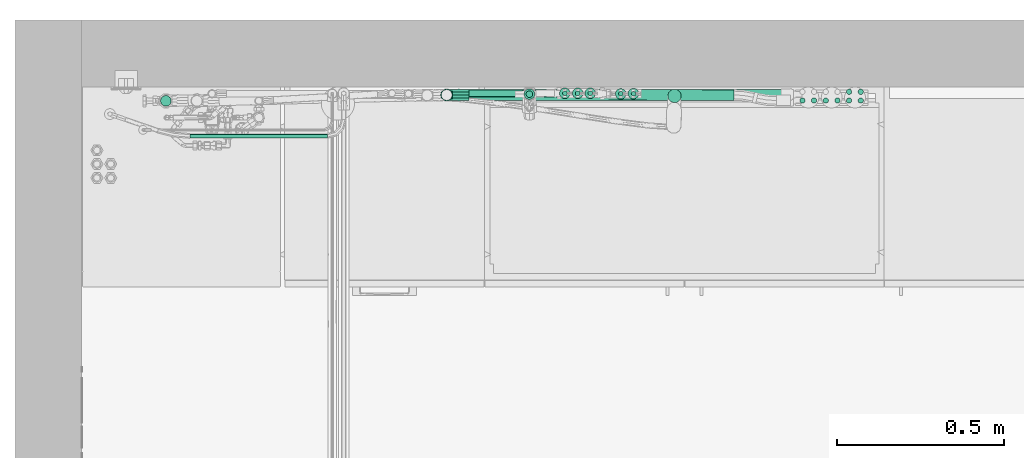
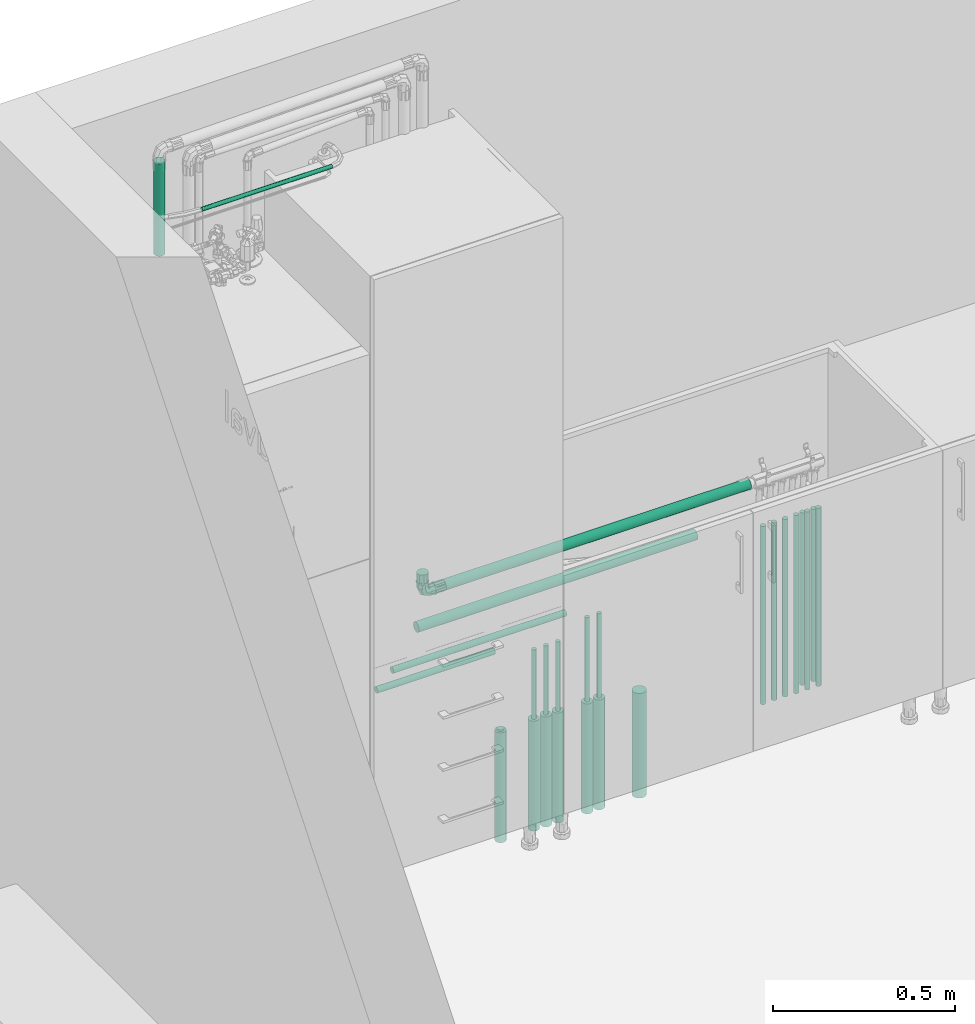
# One storey, part 20 of 30: 27 flow segments, 1 flow fitting.
"""IFC2X3 building model written with IfcOpenShell, lengths in metres."""

import ifcopenshell
import ifcopenshell.guid

model = None  # the IFC model being written
_history = None  # IfcOwnerHistory: only IFC2X3 demands one
_inside = {}  # id of a spatial element -> (the spatial element, [elements in it])
_under = {}  # id of a project, library or spatial element -> (it, [spatial elements below it])
_declared = {}  # id of a project -> (the project, [libraries it declares])
_typed = {}  # id of a type object -> (the type object, [elements of that type])
_made_of = {}  # id of a material, layer set ... -> (it, [elements and type objects made of it])


def new_model(schema):
    """Start an empty IFC model of exactly this schema.

    Asked for "IFC4X3", IfcOpenShell would pick the latest addendum, in which some entities
    have other attributes; the version numbers below select the first issue.
    IFC2X3 requires an IfcOwnerHistory on every rooted entity: one is made here for all.
    """
    global model, _history
    if schema == "IFC4X3":
        model = ifcopenshell.file(schema_version=(4, 3, 0, 0))
    else:
        model = ifcopenshell.file(schema=schema)
    _inside.clear()
    _under.clear()
    _declared.clear()
    _typed.clear()
    _made_of.clear()
    _history = None
    if model.schema == "IFC2X3":
        org = make("IfcOrganization", Name="unknown")
        user = make(
            "IfcPersonAndOrganization",
            ThePerson=make("IfcPerson", FamilyName="unknown"),
            TheOrganization=org,
        )
        app = make(
            "IfcApplication",
            ApplicationDeveloper=org,
            Version="unknown",
            ApplicationFullName="unknown",
            ApplicationIdentifier="unknown",
        )
        _history = make(
            "IfcOwnerHistory",
            OwningUser=user,
            OwningApplication=app,
            ChangeAction="ADDED",
            CreationDate=0,
        )
    return model


def make(cls, **values):
    """One entity of the class cls with the attributes given. An attribute that is None is left unset."""
    return model.create_entity(
        cls, **{name: value for name, value in values.items() if value is not None}
    )


def entity(cls, *values):
    """Any entity or typed value of the class cls, its attributes in the order of the schema. None: left unset."""
    e = model.create_entity(cls)
    for i, value in enumerate(values):
        if value is not None:
            e[i] = value
    return e


def rooted(cls, **values):
    """An entity with a GlobalId (a new one), such as an element, a storey or a relation."""
    return make(cls, GlobalId=ifcopenshell.guid.new(), OwnerHistory=_history, **values)


def si_unit(unit_type, name, prefix=None):
    """IfcSIUnit, for example si_unit("LENGTHUNIT", "METRE", prefix="MILLI")."""
    return make("IfcSIUnit", UnitType=unit_type, Prefix=prefix, Name=name)


def converted_unit(unit_type, name, factor, base, dimensions=None, offset=None):
    """IfcConversionBasedUnit, such as the inch: factor (a typed value) times the base unit."""
    return make(
        "IfcConversionBasedUnit"
        if offset is None
        else "IfcConversionBasedUnitWithOffset",
        ConversionOffset=offset,
        Dimensions=None
        if dimensions is None
        else entity("IfcDimensionalExponents", *dimensions),
        UnitType=unit_type,
        Name=name,
        ConversionFactor=make(
            "IfcMeasureWithUnit", ValueComponent=factor, UnitComponent=base
        ),
    )


def derived_unit(unit_type, elements):
    """IfcDerivedUnit: a product of units, each with its exponent."""
    return make(
        "IfcDerivedUnit",
        Elements=[
            make("IfcDerivedUnitElement", Unit=unit, Exponent=power)
            for unit, power in elements
        ],
        UnitType=unit_type,
    )


def assignment(units):
    """IfcUnitAssignment: the units of a project."""
    return None if units is None else make("IfcUnitAssignment", Units=units)


def point(xyz):
    """IfcCartesianPoint."""
    return None if xyz is None else make("IfcCartesianPoint", Coordinates=xyz)


def direction(xyz):
    """IfcDirection."""
    return None if xyz is None else make("IfcDirection", DirectionRatios=xyz)


def frame(location, z_axis=None, x_axis=None):
    """IfcAxis2Placement3D, a coordinate frame: its origin and axes. An axis left out is left unset."""
    return make(
        "IfcAxis2Placement3D",
        Location=point(location),
        Axis=direction(z_axis),
        RefDirection=direction(x_axis),
    )


def frame_2d(location, x_axis=None):
    """IfcAxis2Placement2D, a coordinate frame in the plane: its origin and x axis."""
    return make(
        "IfcAxis2Placement2D", Location=point(location), RefDirection=direction(x_axis)
    )


def origin():
    """The frame at (0, 0, 0) with its axes left unset."""
    return frame((0.0, 0.0, 0.0))


def origin_2d_with_axis():
    """The frame at (0, 0) in the plane with the x axis (1, 0) written out."""
    return frame_2d((0.0, 0.0), x_axis=(1.0, 0.0))


def place(relative_to, where):
    """IfcLocalPlacement: puts the frame where relative to a parent placement (None: the world)."""
    return make(
        "IfcLocalPlacement", PlacementRelTo=relative_to, RelativePlacement=where
    )


def context(
    kind, dimensions, precision=None, world=None, true_north=None, identifier=None
):
    """IfcGeometricRepresentationContext, for example the 3D "Model" context."""
    return make(
        "IfcGeometricRepresentationContext",
        ContextIdentifier=identifier,
        ContextType=kind,
        CoordinateSpaceDimension=dimensions,
        Precision=precision,
        WorldCoordinateSystem=world,
        TrueNorth=true_north,
    )


def subcontext(parent, identifier, kind, view, scale=None):
    """IfcGeometricRepresentationSubContext, for example "Body" below "Model"."""
    return make(
        "IfcGeometricRepresentationSubContext",
        ContextIdentifier=identifier,
        ContextType=kind,
        ParentContext=parent,
        TargetScale=scale,
        TargetView=view,
    )


def project(units=None, contexts=None):
    """IfcProject with its units and contexts."""
    return rooted(
        "IfcProject",
        Name="project",
        RepresentationContexts=contexts,
        UnitsInContext=assignment(units),
    )


def spatial(cls, under=None, at=None, **own):
    """A site, building, storey or space (cls), placed at a placement, below another one or the project."""
    s = rooted(cls, ObjectPlacement=at, **own)
    if under is not None:
        _under.setdefault(under.id(), (under, []))[1].append(s)
    return s


def profile(cls, at=None, kind="AREA", **sizes):
    """A parametric profile (cls). Its sizes go by their IFC names, for example OverallWidth=200.0."""
    return make(cls, ProfileType=kind, Position=at, **sizes)


def circle(**sizes):
    """IfcCircleProfileDef."""
    return profile("IfcCircleProfileDef", **sizes)


def extrude(swept, where, along, depth):
    """IfcExtrudedAreaSolid: the profile swept, set in the frame where, extruded along a direction by depth."""
    return make(
        "IfcExtrudedAreaSolid",
        SweptArea=swept,
        Position=where,
        ExtrudedDirection=direction(along),
        Depth=depth,
    )


def faces_of(points, faces, orient=None, outer=None):
    """IfcFace entities. A face is a list of loops; a loop is a list of indices into points, from 0.

    orient and outer hold one flag for each loop. By default every Orientation is true, the
    first loop of a face is its IfcFaceOuterBound and the others are IfcFaceBound.
    """
    made = []
    for i, loops in enumerate(faces):
        bounds = []
        for j, loop in enumerate(loops):
            is_outer = j == 0 if outer is None else outer[i][j]
            bounds.append(
                make(
                    "IfcFaceOuterBound" if is_outer else "IfcFaceBound",
                    Bound=make("IfcPolyLoop", Polygon=[points[k] for k in loop]),
                    Orientation=True if orient is None else orient[i][j],
                )
            )
        made.append(make("IfcFace", Bounds=bounds))
    return made


def faceted_brep(points, faces, orient=None, outer=None, voids=None):
    """IfcFacetedBrep: a solid bounded by flat faces; with voids (closed shells), ...WithVoids."""
    shared = [point(p) for p in points]
    hull = make("IfcClosedShell", CfsFaces=faces_of(shared, faces, orient, outer))
    if voids is None:
        return make("IfcFacetedBrep", Outer=hull)
    return make(
        "IfcFacetedBrepWithVoids",
        Outer=hull,
        Voids=[
            make(cls, CfsFaces=faces_of(shared, fs, o, b)) for cls, fs, o, b in voids
        ],
    )


def shape(context_of_items, identifier, shape_type, items):
    """IfcShapeRepresentation: the items that make up one representation, for example the "Body"."""
    return make(
        "IfcShapeRepresentation",
        ContextOfItems=context_of_items,
        RepresentationIdentifier=identifier,
        RepresentationType=shape_type,
        Items=items,
    )


def source(mapping_origin, context_of_items, identifier, shape_type, items):
    """IfcRepresentationMap: a shape defined once, which mapped items show again and again."""
    return make(
        "IfcRepresentationMap",
        MappingOrigin=mapping_origin,
        MappedRepresentation=shape(context_of_items, identifier, shape_type, items),
    )


def transform(
    local_origin,
    x_axis=None,
    y_axis=None,
    z_axis=None,
    scale=None,
    scale2=None,
    scale3=None,
    uniform=True,
):
    """IfcCartesianTransformationOperator3D, or its non-uniform kind. x_axis, y_axis, z_axis: its Axis1, 2, 3."""
    if uniform:
        return make(
            "IfcCartesianTransformationOperator3D",
            Axis1=direction(x_axis),
            Axis2=direction(y_axis),
            LocalOrigin=point(local_origin),
            Scale=scale,
            Axis3=direction(z_axis),
        )
    return make(
        "IfcCartesianTransformationOperator3DnonUniform",
        Axis1=direction(x_axis),
        Axis2=direction(y_axis),
        LocalOrigin=point(local_origin),
        Scale=scale,
        Axis3=direction(z_axis),
        Scale2=scale2,
        Scale3=scale3,
    )


def mapped(mapping_source, mapping_target):
    """IfcMappedItem: shows the shape of a source again, moved by a transform."""
    return make(
        "IfcMappedItem", MappingSource=mapping_source, MappingTarget=mapping_target
    )


def material(Name=None, Category=None):
    """IfcMaterial."""
    return make("IfcMaterial", Name=Name, Category=Category)


def material_list(materials):
    """IfcMaterialList."""
    return make("IfcMaterialList", Materials=materials)


def made_of(thing, what):
    """Note that an element or type object is made of a material, layer set ...; save() writes the relation."""
    if what is not None:
        _made_of.setdefault(what.id(), (what, []))[1].append(thing)
    return thing


def type_object(cls, material=None, **own):
    """A type object (cls), such as IfcWallType, which elements share."""
    return made_of(rooted(cls, **own), material)


def type_shapes(of_type, sources):
    """Give a type object the sources (RepresentationMaps) that its elements show as mapped items."""
    of_type.RepresentationMaps = sources


def element(
    cls,
    number,
    at=None,
    inside=None,
    cuts=None,
    type_object=None,
    material=None,
    context=None,
    identifier="Body",
    shape_type=None,
    held_by="IfcProductDefinitionShape",
    body=None,
    shapes=None,
    **own,
):
    """One element of the class cls, such as IfcWall. Its Tag is "e" and its number.

    at: its placement. inside: the storey or other place that contains it. cuts: it is an
    opening in that element (IfcRelVoidsElement). A single representation is given by context,
    identifier, shape_type and body (its items); several are given by shapes. held_by: the class
    of the entity that holds the representations. save() writes the other relations.
    """
    e = rooted(cls, Tag="e%d" % number, ObjectPlacement=at, **own)
    if body is not None:
        shapes = [shape(context, identifier, shape_type, body)]
    if shapes is not None:
        e.Representation = make(held_by, Representations=shapes)
    if inside is not None:
        _inside.setdefault(inside.id(), (inside, []))[1].append(e)
    if cuts is not None:
        rooted(
            "IfcRelVoidsElement", RelatingBuildingElement=cuts, RelatedOpeningElement=e
        )
    if type_object is not None:
        _typed.setdefault(type_object.id(), (type_object, []))[1].append(e)
    return made_of(e, material)


def aggregate(whole, parts):
    """IfcRelAggregates: a whole, such as a stair, and the parts it consists of."""
    return rooted("IfcRelAggregates", RelatingObject=whole, RelatedObjects=parts)


def save(model, path):
    """Write the relations noted so far, then the file.

    IfcRelAggregates (storeys below a building ...), IfcRelContainedInSpatialStructure (elements
    in a storey), IfcRelDefinesByType, IfcRelAssociatesMaterial and IfcRelDeclares: one each for
    every whole, place, type object, material and project.
    """
    for whole, parts in _under.values():
        aggregate(whole, parts)
    for where, things in _inside.values():
        rooted(
            "IfcRelContainedInSpatialStructure",
            RelatedElements=things,
            RelatingStructure=where,
        )
    for kind, things in _typed.values():
        rooted("IfcRelDefinesByType", RelatedObjects=things, RelatingType=kind)
    for what, things in _made_of.values():
        rooted("IfcRelAssociatesMaterial", RelatedObjects=things, RelatingMaterial=what)
    for by, libraries in _declared.values():
        rooted("IfcRelDeclares", RelatingContext=by, RelatedDefinitions=libraries)
    model.write(path)


model = new_model("IFC2X3")

# Units and contexts
model_context = context("Model", 3, precision=1e-05, world=origin(), true_north=direction((6.123031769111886e-17, 1.0)))
body_context = subcontext(model_context, "Body", "Model", "MODEL_VIEW")
ifc_project = project(units=[si_unit("LENGTHUNIT", "METRE"), si_unit("AREAUNIT", "SQUARE_METRE"), si_unit("VOLUMEUNIT", "CUBIC_METRE"), converted_unit("PLANEANGLEUNIT", "DEGREE", entity("IfcPlaneAngleMeasure", 0.017453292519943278), si_unit("PLANEANGLEUNIT", "RADIAN"), dimensions=[0, 0, 0, 0, 0, 0, 0]), si_unit("MASSUNIT", "GRAM", prefix="KILO"), derived_unit("MASSDENSITYUNIT", [(si_unit("MASSUNIT", "GRAM", prefix="KILO"), 1), (si_unit("LENGTHUNIT", "METRE"), -3)]), derived_unit("IONCONCENTRATIONUNIT", [(si_unit("MASSUNIT", "GRAM", prefix="KILO"), 1), (si_unit("LENGTHUNIT", "METRE"), -3)]), derived_unit("MOMENTOFINERTIAUNIT", [(si_unit("LENGTHUNIT", "METRE"), 4)]), si_unit("TIMEUNIT", "SECOND"), si_unit("FREQUENCYUNIT", "HERTZ"), si_unit("THERMODYNAMICTEMPERATUREUNIT", "DEGREE_CELSIUS"), derived_unit("THERMALTRANSMITTANCEUNIT", [(si_unit("MASSUNIT", "GRAM", prefix="KILO"), 1), (si_unit("THERMODYNAMICTEMPERATUREUNIT", "KELVIN"), -1), (si_unit("TIMEUNIT", "SECOND"), -3)]), derived_unit("THERMALCONDUCTANCEUNIT", [(si_unit("MASSUNIT", "GRAM", prefix="KILO"), 1), (si_unit("THERMODYNAMICTEMPERATUREUNIT", "KELVIN"), -1), (si_unit("TIMEUNIT", "SECOND"), -3), (si_unit("LENGTHUNIT", "METRE"), 1)]), derived_unit("VOLUMETRICFLOWRATEUNIT", [(si_unit("LENGTHUNIT", "METRE", prefix="DECI"), 3), (si_unit("TIMEUNIT", "SECOND"), -1)]), derived_unit("MASSFLOWRATEUNIT", [(si_unit("MASSUNIT", "GRAM", prefix="KILO"), 1), (si_unit("TIMEUNIT", "SECOND"), -1)]), derived_unit("ROTATIONALFREQUENCYUNIT", [(si_unit("TIMEUNIT", "SECOND"), -1)]), si_unit("ELECTRICCURRENTUNIT", "AMPERE"), si_unit("ELECTRICVOLTAGEUNIT", "VOLT"), si_unit("POWERUNIT", "WATT"), si_unit("FORCEUNIT", "NEWTON", prefix="KILO"), si_unit("ILLUMINANCEUNIT", "LUX"), si_unit("LUMINOUSFLUXUNIT", "LUMEN"), si_unit("LUMINOUSINTENSITYUNIT", "CANDELA"), si_unit("ENERGYUNIT", "JOULE"), derived_unit("USERDEFINED", [(si_unit("MASSUNIT", "GRAM", prefix="KILO"), -1), (si_unit("LENGTHUNIT", "METRE"), -2), (si_unit("TIMEUNIT", "SECOND"), 3), (si_unit("LUMINOUSFLUXUNIT", "LUMEN"), 1)]), derived_unit("USERDEFINED", [(si_unit("MASSUNIT", "GRAM", prefix="KILO"), 1), (si_unit("TIMEUNIT", "SECOND"), -3), (si_unit("LENGTHUNIT", "METRE"), 3), (si_unit("ELECTRICCURRENTUNIT", "AMPERE"), -2)]), derived_unit("SOUNDPOWERUNIT", [(si_unit("MASSUNIT", "GRAM", prefix="KILO"), 1), (si_unit("TIMEUNIT", "SECOND"), -3), (si_unit("LENGTHUNIT", "METRE"), 2)]), derived_unit("SOUNDPRESSUREUNIT", [(si_unit("MASSUNIT", "GRAM", prefix="KILO"), 1), (si_unit("LENGTHUNIT", "METRE"), -1), (si_unit("TIMEUNIT", "SECOND"), -2)]), derived_unit("LINEARVELOCITYUNIT", [(si_unit("LENGTHUNIT", "METRE"), 1), (si_unit("TIMEUNIT", "SECOND"), -1)]), si_unit("PRESSUREUNIT", "PASCAL"), derived_unit("USERDEFINED", [(si_unit("MASSUNIT", "GRAM", prefix="KILO"), 1), (si_unit("LENGTHUNIT", "METRE"), -2), (si_unit("TIMEUNIT", "SECOND"), -2)]), derived_unit("LINEARFORCEUNIT", [(si_unit("MASSUNIT", "GRAM", prefix="KILO"), 1), (si_unit("TIMEUNIT", "SECOND"), -2)]), derived_unit("PLANARFORCEUNIT", [(si_unit("MASSUNIT", "GRAM", prefix="KILO"), 1), (si_unit("LENGTHUNIT", "METRE"), -1), (si_unit("TIMEUNIT", "SECOND"), -2)]), derived_unit("SPECIFICHEATCAPACITYUNIT", [(si_unit("THERMODYNAMICTEMPERATUREUNIT", "KELVIN"), -1), (si_unit("LENGTHUNIT", "METRE"), 2), (si_unit("TIMEUNIT", "SECOND"), -2)]), derived_unit("HEATFLUXDENSITYUNIT", [(si_unit("MASSUNIT", "GRAM", prefix="KILO"), 1), (si_unit("TIMEUNIT", "SECOND"), -3)]), derived_unit("HEATINGVALUEUNIT", [(si_unit("LENGTHUNIT", "METRE"), 2), (si_unit("TIMEUNIT", "SECOND"), -2)]), derived_unit("VAPORPERMEABILITYUNIT", [(si_unit("LENGTHUNIT", "METRE"), -1), (si_unit("TIMEUNIT", "SECOND"), 1)]), derived_unit("DYNAMICVISCOSITYUNIT", [(si_unit("MASSUNIT", "GRAM", prefix="KILO"), 1), (si_unit("TIMEUNIT", "SECOND"), -1), (si_unit("LENGTHUNIT", "METRE"), -1)]), derived_unit("THERMALEXPANSIONCOEFFICIENTUNIT", [(si_unit("THERMODYNAMICTEMPERATUREUNIT", "KELVIN"), -1)]), derived_unit("MODULUSOFELASTICITYUNIT", [(si_unit("MASSUNIT", "GRAM", prefix="KILO"), 1), (si_unit("LENGTHUNIT", "METRE"), -1), (si_unit("TIMEUNIT", "SECOND"), -2)]), derived_unit("ISOTHERMALMOISTURECAPACITYUNIT", [(si_unit("MASSUNIT", "GRAM", prefix="KILO"), -1), (si_unit("LENGTHUNIT", "METRE"), 3)]), derived_unit("MOISTUREDIFFUSIVITYUNIT", [(si_unit("TIMEUNIT", "SECOND"), -1), (si_unit("LENGTHUNIT", "METRE"), 2)]), derived_unit("MASSPERLENGTHUNIT", [(si_unit("MASSUNIT", "GRAM", prefix="KILO"), 1), (si_unit("LENGTHUNIT", "METRE"), -1)]), derived_unit("THERMALRESISTANCEUNIT", [(si_unit("MASSUNIT", "GRAM", prefix="KILO"), -1), (si_unit("TIMEUNIT", "SECOND"), 3), (si_unit("THERMODYNAMICTEMPERATUREUNIT", "KELVIN"), 1)]), derived_unit("ACCELERATIONUNIT", [(si_unit("LENGTHUNIT", "METRE"), 1), (si_unit("TIMEUNIT", "SECOND"), -2)]), derived_unit("ANGULARVELOCITYUNIT", [(si_unit("TIMEUNIT", "SECOND"), -1), (si_unit("PLANEANGLEUNIT", "RADIAN"), 1)]), derived_unit("LINEARSTIFFNESSUNIT", [(si_unit("MASSUNIT", "GRAM", prefix="KILO"), 1), (si_unit("TIMEUNIT", "SECOND"), -2)]), derived_unit("WARPINGCONSTANTUNIT", [(si_unit("LENGTHUNIT", "METRE"), 6)]), derived_unit("LINEARMOMENTUNIT", [(si_unit("MASSUNIT", "GRAM", prefix="KILO"), 1), (si_unit("LENGTHUNIT", "METRE"), 1), (si_unit("TIMEUNIT", "SECOND"), -2)]), derived_unit("TORQUEUNIT", [(si_unit("MASSUNIT", "GRAM", prefix="KILO"), 1), (si_unit("LENGTHUNIT", "METRE"), 2), (si_unit("TIMEUNIT", "SECOND"), -2)])], contexts=[model_context])

# Site, building, storey
site_placement = place(None, origin())
site = spatial("IfcSite", under=ifc_project, at=site_placement, Name="Default", CompositionType="ELEMENT")
building_placement = place(site_placement, origin())
building = spatial("IfcBuilding", under=site, at=building_placement, CompositionType="ELEMENT")
storey_placement = place(building_placement, origin())
storey = spatial("IfcBuildingStorey", under=building, at=storey_placement, Name="Niveau 0", CompositionType="ELEMENT", Elevation=-1.949160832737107e-14)

# Flow segments
pipe_segment_type_1 = type_object("IfcPipeSegmentType", Name="Canalisation:PVC - NF", PredefinedType="NOTDEFINED")
flow_segment_1_placement = place(storey_placement, origin())
element("IfcFlowSegment", 1, at=flow_segment_1_placement, inside=storey, type_object=pipe_segment_type_1, Name="Canalisation:PVC - NF", ObjectType="Canalisation:PVC - NF", context=body_context, shape_type="SweptSolid", body=[
    extrude(circle(Radius=0.02, at=origin_2d_with_axis()), frame((-18.835492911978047, 2.8413545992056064, -0.3333663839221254)), (0.0, 0.0, 1.0), 0.35000000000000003),
])
flow_segment_2_placement = place(storey_placement, origin())
element("IfcFlowSegment", 2, at=flow_segment_2_placement, inside=storey, type_object=pipe_segment_type_1, Name="Canalisation:PVC - NF", ObjectType="Canalisation:PVC - NF", context=body_context, shape_type="SweptSolid", body=[
    extrude(circle(Radius=0.016, at=origin_2d_with_axis()), frame((-19.271248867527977, 2.8469379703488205, -0.3365000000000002)), (0.0, 0.0, 1.0), 0.3681530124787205),
])
flow_segment_3_placement = place(storey_placement, origin())
element("IfcFlowSegment", 3, at=flow_segment_3_placement, inside=storey, type_object=pipe_segment_type_1, Name="Canalisation:PVC - NF", ObjectType="Canalisation:PVC - NF", context=body_context, shape_type="SweptSolid", body=[
    extrude(circle(Radius=0.016, at=origin_2d_with_axis()), frame((-19.164887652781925, 2.849437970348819, -0.3365000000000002)), (0.0, 0.0, 1.0), 0.3681530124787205),
])
flow_segment_4_placement = place(storey_placement, origin())
element("IfcFlowSegment", 4, at=flow_segment_4_placement, inside=storey, type_object=pipe_segment_type_1, Name="Canalisation:PVC - NF", ObjectType="Canalisation:PVC - NF", context=body_context, shape_type="SweptSolid", body=[
    extrude(circle(Radius=0.016, at=origin_2d_with_axis()), frame((-19.12603299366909, 2.8494379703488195, -0.33599930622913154)), (0.0, 0.0, 1.0), 0.3681530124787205),
])
flow_segment_5_placement = place(storey_placement, origin())
element("IfcFlowSegment", 5, at=flow_segment_5_placement, inside=storey, type_object=pipe_segment_type_1, Name="Canalisation:PVC - NF", ObjectType="Canalisation:PVC - NF", context=body_context, shape_type="SweptSolid", body=[
    extrude(circle(Radius=0.016, at=origin_2d_with_axis()), frame((-18.99689082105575, 2.847669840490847, -0.3365000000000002)), (0.0, 0.0, 1.0), 0.3681530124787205),
])
flow_segment_6_placement = place(storey_placement, origin())
element("IfcFlowSegment", 6, at=flow_segment_6_placement, inside=storey, type_object=pipe_segment_type_1, Name="Canalisation:PVC - NF", ObjectType="Canalisation:PVC - NF", context=body_context, shape_type="SweptSolid", body=[
    extrude(circle(Radius=0.016, at=frame_2d((0.0, 5.414335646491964e-16), x_axis=(1.0, 0.0))), frame((-18.95885719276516, 2.848151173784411, -0.3365000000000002)), (0.0, 0.0, 1.0), 0.3681530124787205),
])
flow_segment_7_placement = place(storey_placement, origin())
element("IfcFlowSegment", 7, at=flow_segment_7_placement, inside=storey, type_object=pipe_segment_type_1, Name="Canalisation:PVC - NF", ObjectType="Canalisation:PVC - NF", context=body_context, shape_type="SweptSolid", body=[
    extrude(circle(Radius=0.016, at=origin_2d_with_axis()), frame((-19.088541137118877, 2.8494379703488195, -0.33599930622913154)), (0.0, 0.0, 1.0), 0.3681530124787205),
])
pipe_segment_type_2 = type_object("IfcPipeSegmentType", Name="Canalisation:Cuivre Frigo", PredefinedType="NOTDEFINED")
flow_segment_8_placement = place(storey_placement, origin())
element("IfcFlowSegment", 8, at=flow_segment_8_placement, inside=storey, type_object=pipe_segment_type_2, Name="Canalisation:Cuivre Frigo", ObjectType="Canalisation:Cuivre Frigo", context=body_context, shape_type="SweptSolid", body=[
    extrude(circle(Radius=0.00635, at=origin_2d_with_axis()), frame((-20.29082784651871, 2.721425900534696, 2.205137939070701), z_axis=(1.0, 0.0, 0.0), x_axis=(0.0, -1.0, 0.0)), (0.0, 0.0, 1.0), 0.4127384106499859),
])
pipe_segment_type_3 = type_object("IfcPipeSegmentType", Name="Canalisation:COMAP MULTISKIN - SKINPRESS PPSU", PredefinedType="NOTDEFINED")
flow_segment_9_placement = place(storey_placement, origin())
element("IfcFlowSegment", 9, at=flow_segment_9_placement, inside=storey, type_object=pipe_segment_type_3, Name="Canalisation:COMAP MULTISKIN - SKINPRESS PPSU", ObjectType="Canalisation:COMAP MULTISKIN - SKINPRESS PPSU", context=body_context, shape_type="SweptSolid", body=[
    extrude(circle(Radius=0.007, at=frame_2d((0.0, 5.414335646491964e-16), x_axis=(1.0, 0.0))), frame((-19.126541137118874, 2.8492264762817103, -0.3381002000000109)), (0.0, 0.0, 1.0), 0.6016002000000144),
])
flow_segment_10_placement = place(storey_placement, origin())
element("IfcFlowSegment", 10, at=flow_segment_10_placement, inside=storey, type_object=pipe_segment_type_3, Name="Canalisation:COMAP MULTISKIN - SKINPRESS PPSU", ObjectType="Canalisation:COMAP MULTISKIN - SKINPRESS PPSU", context=body_context, shape_type="SweptSolid", body=[
    extrude(circle(Radius=0.007, at=frame_2d((0.0, 5.414335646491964e-16), x_axis=(1.0, 0.0))), frame((-19.164541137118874, 2.8492264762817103, -0.33810020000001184)), (0.0, 0.0, 1.0), 0.6016002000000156),
])
flow_segment_11_placement = place(storey_placement, origin())
element("IfcFlowSegment", 11, at=flow_segment_11_placement, inside=storey, type_object=pipe_segment_type_3, Name="Canalisation:COMAP MULTISKIN - SKINPRESS PPSU", ObjectType="Canalisation:COMAP MULTISKIN - SKINPRESS PPSU", context=body_context, shape_type="SweptSolid", body=[
    extrude(circle(Radius=0.007, at=frame_2d((0.0, 5.414335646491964e-16), x_axis=(1.0, 0.0))), frame((-19.088541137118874, 2.8492264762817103, -0.3365000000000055)), (0.0, 0.0, 1.0), 0.6000000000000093),
])
flow_segment_12_placement = place(storey_placement, origin())
element("IfcFlowSegment", 12, at=flow_segment_12_placement, inside=storey, type_object=pipe_segment_type_3, Name="Canalisation:COMAP MULTISKIN - SKINPRESS PPSU", ObjectType="Canalisation:COMAP MULTISKIN - SKINPRESS PPSU", context=body_context, shape_type="SweptSolid", body=[
    extrude(circle(Radius=0.007, at=origin_2d_with_axis()), frame((-18.996541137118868, 2.848101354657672, -0.33810020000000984)), (0.0, 0.0, 1.0), 0.6516002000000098),
])
flow_segment_13_placement = place(storey_placement, origin())
element("IfcFlowSegment", 13, at=flow_segment_13_placement, inside=storey, type_object=pipe_segment_type_3, Name="Canalisation:COMAP MULTISKIN - SKINPRESS PPSU", ObjectType="Canalisation:COMAP MULTISKIN - SKINPRESS PPSU", context=body_context, shape_type="SweptSolid", body=[
    extrude(circle(Radius=0.007, at=origin_2d_with_axis()), frame((-18.958541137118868, 2.848101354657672, -0.33650000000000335)), (0.0, 0.0, 1.0), 0.6500000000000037),
])
flow_segment_14_placement = place(storey_placement, origin())
element("IfcFlowSegment", 14, at=flow_segment_14_placement, inside=storey, type_object=pipe_segment_type_3, Name="Canalisation:COMAP MULTISKIN - SKINPRESS PPSU", ObjectType="Canalisation:COMAP MULTISKIN - SKINPRESS PPSU", context=body_context, shape_type="SweptSolid", body=[
    extrude(circle(Radius=0.01, at=origin_2d_with_axis()), frame((-19.271248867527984, 2.846796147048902, -0.3165000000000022)), (0.0, 0.0, 1.0), 0.3530000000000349),
])
flow_segment_15_placement = place(storey_placement, origin())
element("IfcFlowSegment", 15, at=flow_segment_15_placement, inside=storey, type_object=pipe_segment_type_3, Name="Canalisation:COMAP MULTISKIN - SKINPRESS PPSU", ObjectType="Canalisation:COMAP MULTISKIN - SKINPRESS PPSU", context=body_context, shape_type="SweptSolid", body=[
    extrude(circle(Radius=0.01, at=frame_2d((0.0, 8.798295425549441e-16), x_axis=(1.0, 0.0))), frame((-19.614537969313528, 2.848101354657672, 0.3500000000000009), z_axis=(1.0, 0.0, 0.0), x_axis=(0.0, 1.0, 0.0)), (0.0, 0.0, 1.0), 0.5484968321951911),
])
flow_segment_16_placement = place(storey_placement, origin())
element("IfcFlowSegment", 16, at=flow_segment_16_placement, inside=storey, type_object=pipe_segment_type_3, Name="Canalisation:COMAP MULTISKIN - SKINPRESS PPSU", ObjectType="Canalisation:COMAP MULTISKIN - SKINPRESS PPSU", context=body_context, shape_type="SweptSolid", body=[
    extrude(circle(Radius=0.016, at=origin_2d_with_axis()), frame((-19.540236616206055, 2.843513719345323, 0.47056252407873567), z_axis=(0.9999993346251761, 0.0011535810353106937, 0.0), x_axis=(0.0011535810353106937, -0.9999993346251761, 0.0)), (0.0, 0.0, 1.0), 0.8835053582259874),
])
flow_segment_17_placement = place(storey_placement, origin())
element("IfcFlowSegment", 17, at=flow_segment_17_placement, inside=storey, type_object=pipe_segment_type_3, Name="Canalisation:COMAP MULTISKIN - SKINPRESS PPSU", ObjectType="Canalisation:COMAP MULTISKIN - SKINPRESS PPSU", context=body_context, shape_type="SweptSolid", body=[
    extrude(circle(Radius=0.01, at=origin_2d_with_axis()), frame((-19.663748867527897, 2.8492961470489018, 0.3000000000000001), z_axis=(1.0, 0.0, 0.0), x_axis=(0.0, -1.0, 0.0)), (0.0, 0.0, 1.0), 0.37249999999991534),
])
flow_segment_18_placement = place(storey_placement, origin())
element("IfcFlowSegment", 18, at=flow_segment_18_placement, inside=storey, type_object=pipe_segment_type_3, Name="Canalisation:COMAP MULTISKIN - SKINPRESS PPSU", ObjectType="Canalisation:COMAP MULTISKIN - SKINPRESS PPSU", context=body_context, shape_type="SweptSolid", body=[
    extrude(circle(Radius=0.016, at=origin_2d_with_axis()), frame((-19.481733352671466, 2.8443084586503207, 0.5809440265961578), z_axis=(1.0, 0.0, 0.0), x_axis=(0.0, -1.0, 0.0)), (0.0, 0.0, 1.0), 0.9941922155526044),
])
flow_segment_19_placement = place(storey_placement, origin())
element("IfcFlowSegment", 19, at=flow_segment_19_placement, inside=storey, type_object=pipe_segment_type_3, Name="Canalisation:COMAP MULTISKIN - SKINPRESS PPSU", ObjectType="Canalisation:COMAP MULTISKIN - SKINPRESS PPSU", context=body_context, shape_type="SweptSolid", body=[
    extrude(circle(Radius=0.016, at=origin_2d_with_axis()), frame((-20.362748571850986, 2.8267264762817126, 2.020749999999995)), (0.0, 0.0, 1.0), 0.30955000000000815),
])
pipe_segment_type_4 = type_object("IfcPipeSegmentType", Name="Canalisation:PER Bleu", PredefinedType="NOTDEFINED")
flow_segment_20_placement = place(storey_placement, origin())
element("IfcFlowSegment", 20, at=flow_segment_20_placement, inside=storey, type_object=pipe_segment_type_4, Name="Canalisation:PER Bleu", ObjectType="Canalisation:PER Bleu", context=body_context, shape_type="SweptSolid", body=[
    extrude(circle(Radius=0.008, at=frame_2d((0.0, 5.414335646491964e-16), x_axis=(1.0, 0.0))), frame((-18.45154113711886, 2.82770792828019, -0.15558429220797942)), (0.0, 0.0, 1.0), 0.5961440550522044),
])
flow_segment_21_placement = place(storey_placement, origin())
element("IfcFlowSegment", 21, at=flow_segment_21_placement, inside=storey, type_object=pipe_segment_type_4, Name="Canalisation:PER Bleu", ObjectType="Canalisation:PER Bleu", context=body_context, shape_type="SweptSolid", body=[
    extrude(circle(Radius=0.008, at=frame_2d((0.0, 5.414335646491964e-16), x_axis=(1.0, 0.0))), frame((-18.416498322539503, 2.82770792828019, -0.1542484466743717)), (0.0, 0.0, 1.0), 0.5948082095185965),
])
flow_segment_22_placement = place(storey_placement, origin())
element("IfcFlowSegment", 22, at=flow_segment_22_placement, inside=storey, type_object=pipe_segment_type_4, Name="Canalisation:PER Bleu", ObjectType="Canalisation:PER Bleu", context=body_context, shape_type="SweptSolid", body=[
    extrude(circle(Radius=0.008, at=frame_2d((0.0, 5.414335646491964e-16), x_axis=(1.0, 0.0))), frame((-18.381456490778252, 2.82770792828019, -0.15424844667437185)), (0.0, 0.0, 1.0), 0.5948082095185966),
])
flow_segment_23_placement = place(storey_placement, origin())
element("IfcFlowSegment", 23, at=flow_segment_23_placement, inside=storey, type_object=pipe_segment_type_4, Name="Canalisation:PER Bleu", ObjectType="Canalisation:PER Bleu", context=body_context, shape_type="SweptSolid", body=[
    extrude(circle(Radius=0.008, at=frame_2d((-2.1657342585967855e-15, 5.414335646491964e-16), x_axis=(1.0, 0.0))), frame((-18.346400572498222, 2.82770792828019, -0.15558429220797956)), (0.0, 0.0, 1.0), 0.596144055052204),
])
flow_segment_24_placement = place(storey_placement, origin())
element("IfcFlowSegment", 24, at=flow_segment_24_placement, inside=storey, type_object=pipe_segment_type_4, Name="Canalisation:PER Bleu", ObjectType="Canalisation:PER Bleu", context=body_context, shape_type="SweptSolid", body=[
    extrude(circle(Radius=0.008, at=frame_2d((0.0, 5.414335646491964e-16), x_axis=(1.0, 0.0))), frame((-18.311353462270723, 2.82770792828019, -0.15558429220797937)), (0.0, 0.0, 1.0), 0.5961440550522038),
])
flow_segment_25_placement = place(storey_placement, origin())
element("IfcFlowSegment", 25, at=flow_segment_25_placement, inside=storey, type_object=pipe_segment_type_4, Name="Canalisation:PER Bleu", ObjectType="Canalisation:PER Bleu", context=body_context, shape_type="SweptSolid", body=[
    extrude(circle(Radius=0.008, at=frame_2d((0.0, 5.414335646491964e-16), x_axis=(1.0, 0.0))), frame((-18.276299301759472, 2.82770792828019, -0.15558429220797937)), (0.0, 0.0, 1.0), 0.5961440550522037),
])
pipe_segment_type_5 = type_object("IfcPipeSegmentType", Name="Canalisation:PER Rouge", PredefinedType="NOTDEFINED")
flow_segment_26_placement = place(storey_placement, origin())
element("IfcFlowSegment", 26, at=flow_segment_26_placement, inside=storey, type_object=pipe_segment_type_5, Name="Canalisation:PER Rouge", ObjectType="Canalisation:PER Rouge", context=body_context, shape_type="SweptSolid", body=[
    extrude(circle(Radius=0.008, at=frame_2d((0.0, 5.414335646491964e-16), x_axis=(1.0, 0.0))), frame((-18.276299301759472, 2.8539082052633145, -0.15558429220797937)), (0.0, 0.0, 1.0), 0.5768423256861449),
])
flow_segment_27_placement = place(storey_placement, origin())
element("IfcFlowSegment", 27, at=flow_segment_27_placement, inside=storey, type_object=pipe_segment_type_5, Name="Canalisation:PER Rouge", ObjectType="Canalisation:PER Rouge", context=body_context, shape_type="SweptSolid", body=[
    extrude(circle(Radius=0.008, at=frame_2d((0.0, 5.414335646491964e-16), x_axis=(1.0, 0.0))), frame((-18.311353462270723, 2.8539082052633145, -0.1555842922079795)), (0.0, 0.0, 1.0), 0.5768423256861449),
])

# Flow fitting
ifc_material_1 = material(Name="PPSU")
ifc_material_2 = material(Name="Bague blanche VisuControl")
ifc_material_3 = material(Name="Inox")
ifc_material_list = material_list([ifc_material_1, ifc_material_2, ifc_material_3])
pipe_fitting_type = type_object("IfcPipeFittingType", Name="COMAP - SKINPRESS ppsu - Coude_45_90_9041W_9090W:Coude_45_90_9041W_9090W", PredefinedType="NOTDEFINED", material=ifc_material_list)
shared_shape = source(origin(), body_context, "Body", "Brep", [
    faceted_brep([(-0.0184999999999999, 0.03400000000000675, 0.0), (-0.01602146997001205, 0.03400000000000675, -0.009249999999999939), (-0.004788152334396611, 0.03400000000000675, -0.017869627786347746), (0.004788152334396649, 0.03400000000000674, -0.017869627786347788), (0.016021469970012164, 0.03400000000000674, -0.009250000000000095), (0.018500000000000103, 0.03400000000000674, 0.0), (0.016021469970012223, 0.03400000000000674, 0.009249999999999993), (0.004788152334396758, 0.03400000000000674, 0.017869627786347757), (-0.0047881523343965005, 0.03400000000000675, 0.017869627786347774), (-0.01602146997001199, 0.03400000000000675, 0.009250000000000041), (0.004788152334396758, 0.038000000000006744, 0.017869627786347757), (0.016021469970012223, 0.038000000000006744, 0.009249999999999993), (0.018500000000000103, 0.038000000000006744, 0.0), (0.016021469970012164, 0.038000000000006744, -0.009250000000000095), (0.004788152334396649, 0.038000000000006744, -0.017869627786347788), (-0.004788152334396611, 0.038000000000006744, -0.017869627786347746), (-0.01602146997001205, 0.038000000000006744, -0.009249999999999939), (-0.0184999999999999, 0.038000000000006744, 0.0), (-0.01602146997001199, 0.038000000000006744, 0.009250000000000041), (-0.0047881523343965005, 0.038000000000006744, 0.017869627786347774)], [[[0, 1, 2, 3, 4, 5, 6, 7, 8, 9]], [[10, 11, 12, 13, 14, 15, 16, 17, 18, 19]], [[1, 0, 17, 16]], [[2, 1, 16, 15]], [[15, 14, 3, 2]], [[4, 3, 14, 13]], [[5, 4, 13, 12]], [[6, 5, 12, 11]], [[7, 6, 11, 10]], [[10, 19, 8, 7]], [[9, 8, 19, 18]], [[0, 9, 18, 17]]]),
    faceted_brep([(0.01472243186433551, 0.03300000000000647, -0.008500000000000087), (0.017000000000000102, 0.03300000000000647, 0.0), (0.014722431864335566, 0.03300000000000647, 0.008499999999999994), (0.004399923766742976, 0.03300000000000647, 0.016420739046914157), (-0.004399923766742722, 0.03300000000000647, 0.01642073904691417), (-0.014722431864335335, 0.03300000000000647, 0.008500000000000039), (-0.0169999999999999, 0.03300000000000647, 0.0), (-0.014722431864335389, 0.03300000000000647, -0.008499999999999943), (-0.004399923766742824, 0.03300000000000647, -0.016420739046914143), (0.004399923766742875, 0.03300000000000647, -0.016420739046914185), (0.004399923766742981, 0.06700000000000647, 0.016420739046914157), (0.01472243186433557, 0.06700000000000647, 0.008499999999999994), (0.01700000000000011, 0.06700000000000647, 0.0), (0.014722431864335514, 0.06700000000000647, -0.008500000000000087), (0.004399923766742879, 0.06700000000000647, -0.016420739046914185), (-0.0043999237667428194, 0.06700000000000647, -0.016420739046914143), (-0.014722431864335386, 0.06700000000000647, -0.008499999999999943), (-0.016999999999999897, 0.06700000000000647, 0.0), (-0.01472243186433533, 0.06700000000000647, 0.008500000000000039), (-0.004399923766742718, 0.06700000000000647, 0.01642073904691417)], [[[0, 1, 2, 3, 4, 5, 6, 7, 8, 9]], [[10, 11, 12, 13, 14, 15, 16, 17, 18, 19]], [[7, 6, 17, 16]], [[8, 7, 16, 15]], [[15, 14, 9, 8]], [[0, 9, 14, 13]], [[1, 0, 13, 12]], [[2, 1, 12, 11]], [[3, 2, 11, 10]], [[10, 19, 4, 3]], [[5, 4, 19, 18]], [[6, 5, 18, 17]]]),
    faceted_brep([(-0.03399999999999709, -0.018499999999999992, 0.0), (-0.03399999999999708, -0.016021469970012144, -0.009249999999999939), (-0.03399999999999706, -0.004788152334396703, -0.017869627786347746), (-0.033999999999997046, 0.004788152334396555, -0.017869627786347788), (-0.033999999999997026, 0.01602146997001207, -0.009250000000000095), (-0.03399999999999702, 0.01850000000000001, 0.0), (-0.033999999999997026, 0.01602146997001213, 0.009249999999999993), (-0.033999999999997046, 0.004788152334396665, 0.017869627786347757), (-0.03399999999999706, -0.004788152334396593, 0.017869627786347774), (-0.03399999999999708, -0.016021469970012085, 0.009250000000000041), (-0.03799999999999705, 0.004788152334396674, 0.017869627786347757), (-0.03799999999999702, 0.016021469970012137, 0.009249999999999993), (-0.03799999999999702, 0.018500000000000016, 0.0), (-0.03799999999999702, 0.016021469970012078, -0.009250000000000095), (-0.03799999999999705, 0.004788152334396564, -0.017869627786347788), (-0.037999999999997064, -0.004788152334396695, -0.017869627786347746), (-0.03799999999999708, -0.016021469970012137, -0.009249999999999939), (-0.03799999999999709, -0.018499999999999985, 0.0), (-0.03799999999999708, -0.016021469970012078, 0.009250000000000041), (-0.037999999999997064, -0.004788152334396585, 0.017869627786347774)], [[[0, 1, 2, 3, 4, 5, 6, 7, 8, 9]], [[10, 11, 12, 13, 14, 15, 16, 17, 18, 19]], [[1, 0, 17, 16]], [[2, 1, 16, 15]], [[15, 14, 3, 2]], [[4, 3, 14, 13]], [[5, 4, 13, 12]], [[6, 5, 12, 11]], [[7, 6, 11, 10]], [[10, 19, 8, 7]], [[9, 8, 19, 18]], [[0, 9, 18, 17]]]),
    faceted_brep([(-0.03299999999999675, 0.014722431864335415, -0.008500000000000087), (-0.03299999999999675, 0.017000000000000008, 0.0), (-0.03299999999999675, 0.01472243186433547, 0.008499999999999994), (-0.03299999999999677, 0.004399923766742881, 0.016420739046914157), (-0.03299999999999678, -0.004399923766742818, 0.01642073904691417), (-0.0329999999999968, -0.01472243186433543, 0.008500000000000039), (-0.0329999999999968, -0.016999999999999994, 0.0), (-0.0329999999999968, -0.014722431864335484, -0.008499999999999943), (-0.03299999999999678, -0.004399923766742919, -0.016420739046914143), (-0.03299999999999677, 0.0043999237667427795, -0.016420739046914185), (-0.06699999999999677, 0.004399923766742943, 0.016420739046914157), (-0.06699999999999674, 0.014722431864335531, 0.008499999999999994), (-0.06699999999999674, 0.01700000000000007, 0.0), (-0.06699999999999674, 0.014722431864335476, -0.008500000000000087), (-0.06699999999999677, 0.004399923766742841, -0.016420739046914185), (-0.06699999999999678, -0.004399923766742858, -0.016420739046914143), (-0.06699999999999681, -0.014722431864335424, -0.008499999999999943), (-0.06699999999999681, -0.016999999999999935, 0.0), (-0.06699999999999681, -0.014722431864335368, 0.008500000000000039), (-0.06699999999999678, -0.004399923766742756, 0.01642073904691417)], [[[0, 1, 2, 3, 4, 5, 6, 7, 8, 9]], [[10, 11, 12, 13, 14, 15, 16, 17, 18, 19]], [[7, 6, 17, 16]], [[8, 7, 16, 15]], [[15, 14, 9, 8]], [[0, 9, 14, 13]], [[1, 0, 13, 12]], [[2, 1, 12, 11]], [[3, 2, 11, 10]], [[10, 19, 4, 3]], [[5, 4, 19, 18]], [[6, 5, 18, 17]]]),
    faceted_brep([(-0.03299999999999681, -0.014722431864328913, -0.008500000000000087), (-0.03299999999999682, -0.016999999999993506, 0.0), (-0.03299999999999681, -0.014722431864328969, 0.008499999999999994), (-0.032999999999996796, -0.00439992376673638, 0.016420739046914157), (-0.03299999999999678, 0.0043999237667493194, 0.01642073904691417), (-0.03299999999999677, 0.01472243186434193, 0.008500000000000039), (-0.03299999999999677, 0.017000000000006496, 0.0), (-0.03299999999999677, 0.014722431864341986, -0.008499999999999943), (-0.03299999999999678, 0.004399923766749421, -0.016420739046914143), (-0.032999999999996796, -0.004399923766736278, -0.016420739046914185), (-0.0179999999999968, -0.004399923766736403, 0.016420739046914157), (-0.017999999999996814, -0.014722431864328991, 0.008499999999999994), (-0.017999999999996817, -0.01699999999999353, 0.0), (-0.017999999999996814, -0.014722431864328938, -0.008500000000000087), (-0.0179999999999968, -0.004399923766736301, -0.016420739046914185), (-0.017999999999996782, 0.0043999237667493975, -0.016420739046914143), (-0.01799999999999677, 0.014722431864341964, -0.008499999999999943), (-0.017999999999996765, 0.017000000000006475, 0.0), (-0.01799999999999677, 0.014722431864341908, 0.008500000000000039), (-0.017999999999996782, 0.004399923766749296, 0.01642073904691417)], [[[0, 1, 2, 3, 4, 5, 6, 7, 8, 9]], [[10, 11, 12, 13, 14, 15, 16, 17, 18, 19]], [[7, 6, 17, 16]], [[8, 7, 16, 15]], [[15, 14, 9, 8]], [[0, 9, 14, 13]], [[1, 0, 13, 12]], [[2, 1, 12, 11]], [[3, 2, 11, 10]], [[10, 19, 4, 3]], [[5, 4, 19, 18]], [[6, 5, 18, 17]]]),
    faceted_brep([(-0.00849999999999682, 0.033000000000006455, 0.014722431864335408), (0.0, 0.03300000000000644, 0.017), (0.008500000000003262, 0.03300000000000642, 0.014722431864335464), (0.016420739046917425, 0.03300000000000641, 0.004399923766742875), (0.01642073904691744, 0.03300000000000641, -0.004399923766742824), (0.008500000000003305, 0.03300000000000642, -0.014722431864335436), (0.0, 0.03300000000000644, -0.017), (-0.008499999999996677, 0.033000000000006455, -0.014722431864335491), (-0.016420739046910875, 0.03300000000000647, -0.004399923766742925), (-0.016420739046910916, 0.03300000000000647, 0.0043999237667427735), (0.016420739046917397, 0.01800000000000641, 0.004399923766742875), (0.008500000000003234, 0.018000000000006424, 0.014722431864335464), (0.0, 0.018000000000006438, 0.017), (-0.008499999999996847, 0.018000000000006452, 0.014722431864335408), (-0.016420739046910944, 0.01800000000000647, 0.0043999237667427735), (-0.016420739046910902, 0.01800000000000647, -0.004399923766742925), (-0.008499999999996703, 0.018000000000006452, -0.014722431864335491), (0.0, 0.018000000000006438, -0.017), (0.00850000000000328, 0.018000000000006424, -0.014722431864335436), (0.01642073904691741, 0.01800000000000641, -0.004399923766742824)], [[[0, 1, 2, 3, 4, 5, 6, 7, 8, 9]], [[10, 11, 12, 13, 14, 15, 16, 17, 18, 19]], [[7, 6, 17, 16]], [[8, 7, 16, 15]], [[15, 14, 9, 8]], [[0, 9, 14, 13]], [[1, 0, 13, 12]], [[2, 1, 12, 11]], [[3, 2, 11, 10]], [[10, 19, 4, 3]], [[5, 4, 19, 18]], [[6, 5, 18, 17]]]),
    faceted_brep([(0.0067487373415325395, -0.0067487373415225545, 0.0), (0.003227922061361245, -0.0032279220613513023, -0.012020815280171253), (0.012020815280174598, 0.018000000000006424, -0.012020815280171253), (0.017000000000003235, 0.018000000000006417, 0.0), (-0.005272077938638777, 0.00527207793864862, -0.017), (0.0, 0.018000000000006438, -0.017), (-0.013772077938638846, 0.013772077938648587, -0.012020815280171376), (-0.012020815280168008, 0.018000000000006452, -0.012020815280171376), (-0.017292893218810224, 0.01729289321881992, 0.0), (-0.016999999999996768, 0.01800000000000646, 0.0), (-0.013772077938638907, 0.013772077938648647, 0.012020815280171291), (-0.012020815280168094, 0.018000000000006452, 0.012020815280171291), (-0.005272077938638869, 0.00527207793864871, 0.017), (0.0, 0.018000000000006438, 0.017), (0.0032279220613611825, -0.00322792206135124, 0.012020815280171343), (0.01202081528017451, 0.018000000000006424, 0.012020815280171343), (-0.01799999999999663, -0.01699999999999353, 0.0), (-0.01799999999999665, -0.012020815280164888, -0.012020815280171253), (-0.017999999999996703, 0.0, -0.017), (-0.01799999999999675, 0.012020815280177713, -0.012020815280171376), (-0.017999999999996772, 0.017000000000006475, 0.0), (-0.01799999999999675, 0.0120208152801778, 0.012020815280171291), (-0.017999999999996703, 0.0, 0.017), (-0.01799999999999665, -0.012020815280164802, 0.012020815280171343)], [[[0, 1, 2, 3]], [[1, 4, 5, 2]], [[4, 6, 7, 5]], [[6, 8, 9, 7]], [[8, 10, 11, 9]], [[10, 12, 13, 11]], [[12, 14, 15, 13]], [[14, 0, 3, 15]], [[16, 17, 1, 0]], [[17, 18, 4, 1]], [[18, 19, 6, 4]], [[19, 20, 8, 6]], [[20, 21, 10, 8]], [[21, 22, 12, 10]], [[22, 23, 14, 12]], [[23, 16, 0, 14]], [[3, 2, 5, 7, 9, 11, 13, 15]], [[23, 22, 21, 20, 19, 18, 17, 16]]]),
])
type_shapes(pipe_fitting_type, [shared_shape])
flow_fitting_placement = place(storey_placement, frame((-19.519733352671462, 2.8443084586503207, 0.5809440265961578), z_axis=(0.0, 1.0, 0.0), x_axis=(-1.0, 0.0, 0.0)))
element("IfcFlowFitting", 28, at=flow_fitting_placement, inside=storey, type_object=pipe_fitting_type, material=ifc_material_list, Name="COMAP - SKINPRESS ppsu - Coude_45_90_9041W_9090W:Coude_45_90_9041W_9090W", ObjectType="COMAP - SKINPRESS ppsu - Coude_45_90_9041W_9090W:Coude_45_90_9041W_9090W", context=body_context, shape_type="MappedRepresentation", body=[
    mapped(shared_shape, transform((0.0, 0.0, 0.0), scale=1.0)),
])

save(model, "model.ifc")
